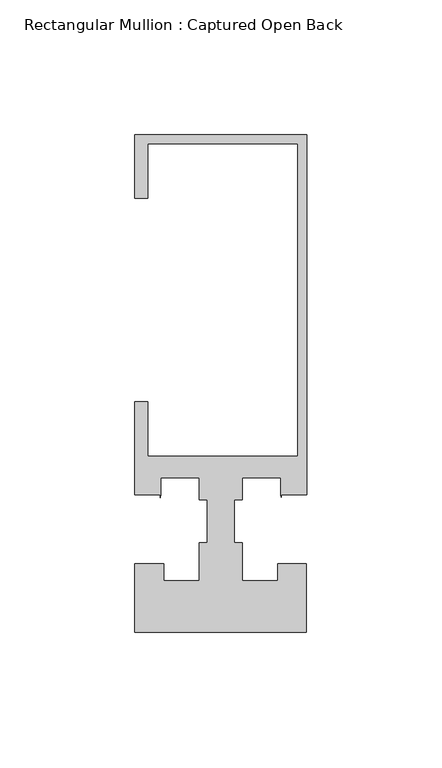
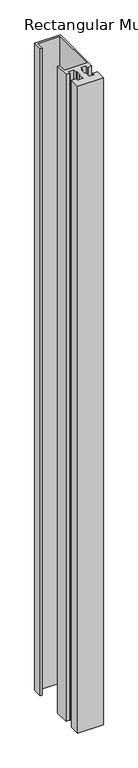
"""IFC4 building model written with IfcOpenShell, lengths in millimetres: member geometry, Rectangular Mullion : Captured Open Back."""

from ifc_helpers import new_model, si_unit, frame, origin, place, context, project, spatial, polyline, outline, extrude, source, transform, mapped, element, save


def rectangular_mullion_captured_open_back_21070717(model_context):
    return source(origin(), model_context, "Body", "SweptSolid", [
        extrude(outline(polyline([(-63.5205663, 114.3), (0.0, 114.3), (0.0, -18.9488461), (-9.3386849, -18.9488461), (-9.3386849, -19.8905485), (-9.5249909, -18.948961), (-9.5249909, -12.7), (-23.8124458, -12.7), (-23.8124458, -20.8793999), (-26.7860526, -20.8793999), (-26.7860526, -36.6491027), (-23.8124461, -36.6491027), (-23.8124461, -50.8001709), (-10.7229117, -50.8001709), (-10.7229117, -44.4247364), (-0.0205663, -44.4247364), (-0.0205663, -69.8502416), (-63.5205663, -69.8502416), (-63.5205663, -44.4245655), (-52.8345479, -44.4245655), (-52.8345479, -50.8001709), (-39.6874472, -50.8001709), (-39.6874472, -36.6491027), (-36.738785, -36.6491027), (-36.738785, -20.8793999), (-39.7916658, -20.8793999), (-39.7916658, -12.7), (-53.9751125, -12.7), (-53.9751125, -18.933673), (-54.1413824, -20.0839351), (-54.1413824, -18.933673), (-63.5205663, -18.933673), (-63.5205663, 15.5833982), (-58.7374998, 15.5833982), (-58.7374998, -4.7625735), (-3.175617, -4.7625735), (-3.175617, 111.1250145), (-58.7374998, 111.1250145), (-58.7374998, 90.8721193), (-63.5205663, 90.8721193), (-63.5205663, 114.3)])), frame((0.0, 0.0, -1692.2396178), z_axis=(0.0, 0.0, 1.0), x_axis=(1.0, 0.0, 0.0)), (0.0, 0.0, 1.0), 1692.2396178),
    ])


if __name__ == "__main__":
    model = new_model("IFC4")
    model_context = context("Model", 3, world=origin())
    ifc_project = project(units=[si_unit("LENGTHUNIT", "METRE", prefix="MILLI")], contexts=[model_context])
    site = spatial("IfcSite", under=ifc_project)
    building = spatial("IfcBuilding", under=site)
    placement = place(None, origin())
    rectangular_mullion_captured_open_back_shape = rectangular_mullion_captured_open_back_21070717(model_context)
    element("IfcMember", 1, ObjectType="Rectangular Mullion : Captured Open Back", at=placement, inside=building, context=model_context, shape_type="MappedRepresentation", body=[
        mapped(rectangular_mullion_captured_open_back_shape, transform((0.0, 0.0, 0.0), x_axis=(1.0, 0.0, 0.0), y_axis=(0.0, 1.0, 0.0), z_axis=(0.0, 0.0, 1.0))),
    ])
    save(model, "model.ifc")
